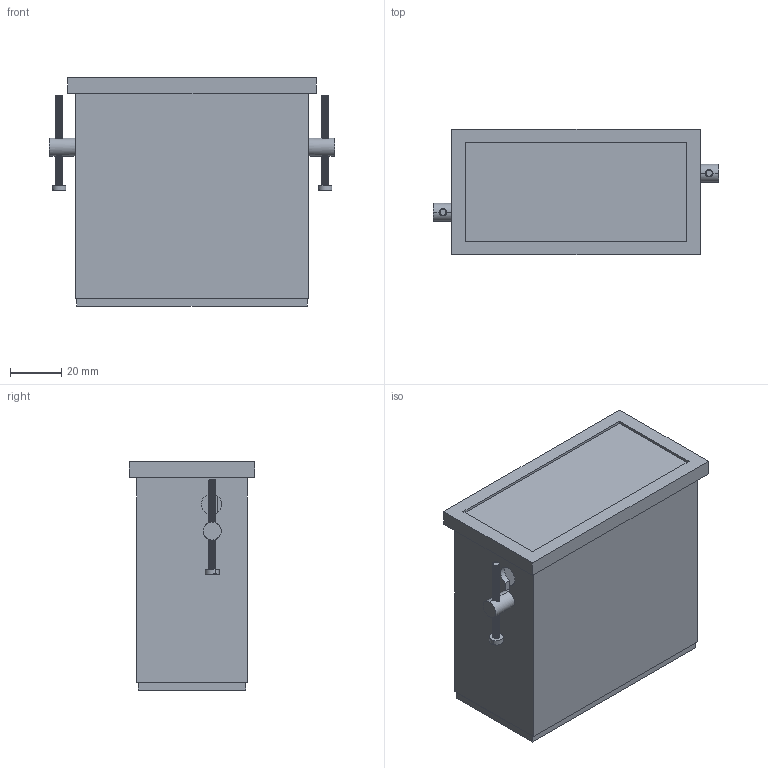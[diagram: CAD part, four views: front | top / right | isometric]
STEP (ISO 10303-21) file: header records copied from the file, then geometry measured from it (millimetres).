
FILE_DESCRIPTION (( 'STEP AP214' ), '1' );
FILE_NAME ('Conjunt PP10.STEP', '2017-07-19T09:04:29', ( 'aaa' ), ( '' ), 'SwSTEP 2.0', 'SolidWorks 2013', '' );
FILE_SCHEMA (( 'AUTOMOTIVE_DESIGN' ));
Length unit declared in the file: millimetre
Products named in the file (8): Cargol 2,2x13 PP10; Cargol Metric PP10; Distanciador PP10; Tapa negre PP10; Marc negre PP10; Plastic transparent PP10; Caixa negre PP10; Conjunt PP10
Assembly tree (12 placements, depth 2):
  Conjunt PP10
    Caixa negre PP10
    Plastic transparent PP10
    Marc negre PP10
    Tapa negre PP10
    Distanciador PP10  x2
    Cargol Metric PP10  x2
    Cargol 2,2x13 PP10  x4
Bounding box: 111.2 x 49 x 89 mm (x, y, z)
Volume: 89014.5 mm3; surface area: 74950.3 mm2
Topology: 12 solids, 12 shells, 1808 faces, 3752 edges, 1980 vertices
Faces by surface type: cone 1544, plane 194, cylinder 70
Entity records: 21913 total; most frequent: DIRECTION 4140, CARTESIAN_POINT 3617, ORIENTED_EDGE 3468, EDGE_CURVE 1734, AXIS2_PLACEMENT_3D 1578, VECTOR 984, LINE 984, VERTEX_POINT 947
